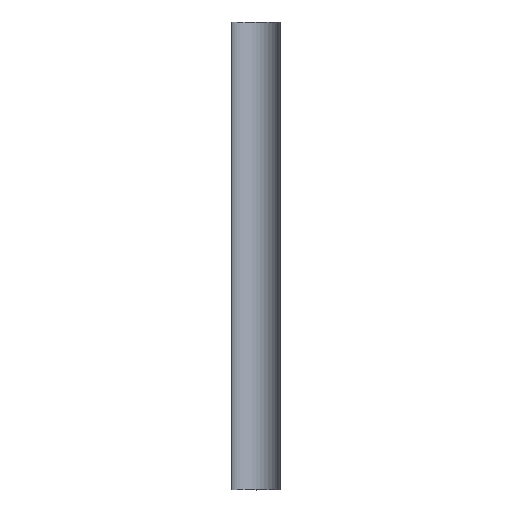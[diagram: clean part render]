
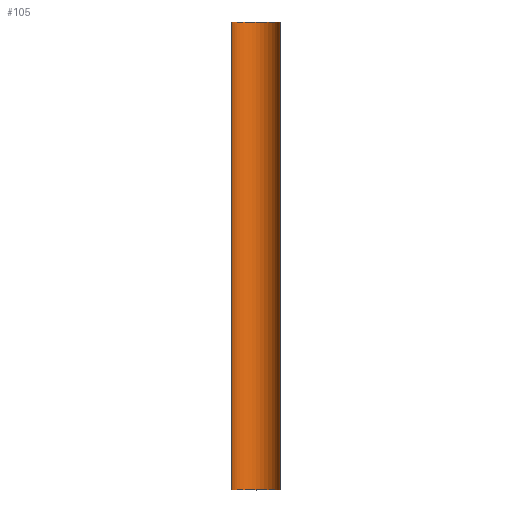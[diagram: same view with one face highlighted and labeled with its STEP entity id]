
A CAD part, top view. The second image highlights one B-rep face of the part: STEP entity #105.
In plain terms, the highlighted cylindrical face has radius 157.5 mm (diameter 315 mm), a partial arc.
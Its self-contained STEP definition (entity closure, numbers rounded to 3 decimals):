
#13=CYLINDRICAL_SURFACE($,#117,157.5);
#18=FACE_OUTER_BOUND($,#24,.T.);
#24=EDGE_LOOP($,(#82,#83,#84,#85));
#26=CIRCLE($,#111,157.5);
#29=CIRCLE($,#118,157.5);
#34=LINE($,#165,#42);
#37=LINE($,#173,#45);
#42=VECTOR($,#134,3000.);
#45=VECTOR($,#143,3000.);
#46=VERTEX_POINT($,#152);
#48=VERTEX_POINT($,#155);
#50=VERTEX_POINT($,#161);
#53=VERTEX_POINT($,#171);
#55=EDGE_CURVE($,#48,#46,#26,.T.);
#60=EDGE_CURVE($,#50,#48,#34,.T.);
#64=EDGE_CURVE($,#46,#53,#37,.T.);
#65=EDGE_CURVE($,#53,#50,#29,.T.);
#82=ORIENTED_EDGE($,*,*,#65,.T.);
#83=ORIENTED_EDGE($,*,*,#60,.T.);
#84=ORIENTED_EDGE($,*,*,#55,.T.);
#85=ORIENTED_EDGE($,*,*,#64,.T.);
#105=ADVANCED_FACE($,(#18),#13,.F.);
#111=AXIS2_PLACEMENT_3D($,#156,#125,#126);
#117=AXIS2_PLACEMENT_3D($,#174,#144,#145);
#118=AXIS2_PLACEMENT_3D($,#175,#146,#147);
#125=DIRECTION('center_axis',(0.,-1.,0.));
#126=DIRECTION('ref_axis',(-1.,0.,0.));
#134=DIRECTION($,(0.,-1.,0.));
#143=DIRECTION($,(0.,1.,0.));
#144=DIRECTION('center_axis',(0.,1.,0.));
#145=DIRECTION('ref_axis',(-1.,0.,0.));
#146=DIRECTION('center_axis',(0.,1.,0.));
#147=DIRECTION('ref_axis',(-1.,0.,0.));
#152=CARTESIAN_POINT('',(157.5,-1500.,0.));
#155=CARTESIAN_POINT('',(-157.5,-1500.,0.));
#156=CARTESIAN_POINT('Origin',(0.,-1500.,0.));
#161=CARTESIAN_POINT('',(-157.5,1500.,0.));
#165=CARTESIAN_POINT($,(-157.5,0.,0.));
#171=CARTESIAN_POINT('',(157.5,1500.,0.));
#173=CARTESIAN_POINT($,(157.5,0.,0.));
#174=CARTESIAN_POINT('Origin',(0.,0.,0.));
#175=CARTESIAN_POINT('Origin',(0.,1500.,0.));
